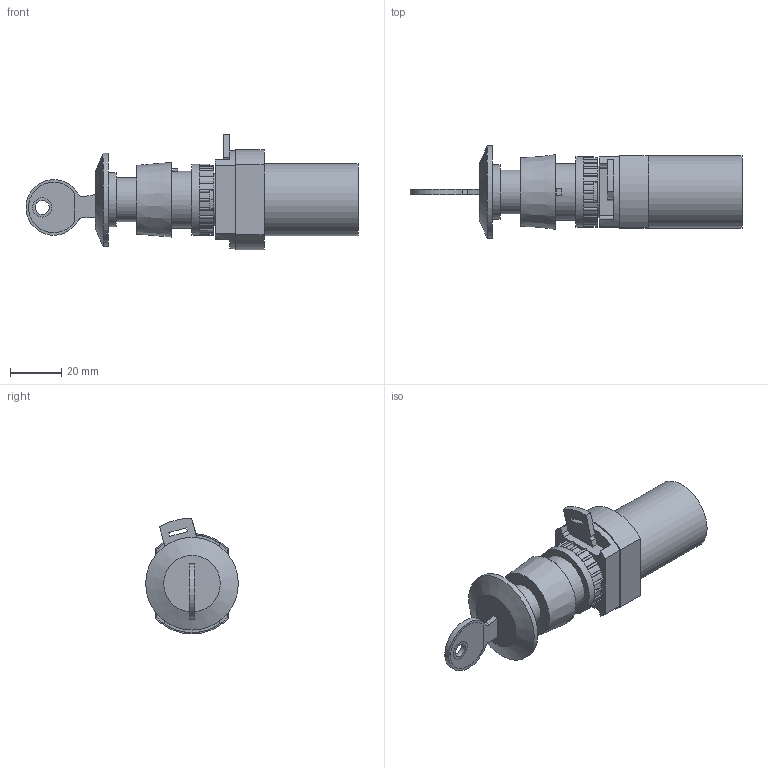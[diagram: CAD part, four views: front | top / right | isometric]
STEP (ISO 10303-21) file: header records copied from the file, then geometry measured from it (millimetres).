
FILE_DESCRIPTION (( 'STEP AP214' ), '1' );
FILE_NAME ('18-T-23-015---T-30-510_Airtec.step', '2018-11-15T12:47:47', ( '' ), ( '' ), 'SwSTEP 2.0', 'SolidWorks 2010', '' );
FILE_SCHEMA (( 'AUTOMOTIVE_DESIGN' ));
Length unit declared in the file: millimetre
Products named in the file (3): 18-T-23-015-Airtec; T-30-510-Airtec; 18-T-23-015---T-30-510_Airtec
Assembly tree (2 placements, depth 2):
  18-T-23-015---T-30-510_Airtec
    18-T-23-015-Airtec
    T-30-510-Airtec
Bounding box: 128.97 x 36 x 45 mm (x, y, z)
Volume: 61007.1 mm3; surface area: 17759.5 mm2
Topology: 2 solids, 2 shells, 373 faces, 1011 edges, 663 vertices
Faces by surface type: plane 221, cylinder 144, cone 8
Full cylindrical faces by diameter (mm): 3.9 x1, 4.134 x5, 5.5 x1, 7.5 x2, 16 x1, 17 x1, 20 x1, 21 x1, 22 x1, 27.5 x1, 28 x1, 36 x1
Entity records: 11690 total; most frequent: DIRECTION 2092, CARTESIAN_POINT 2006, ORIENTED_EDGE 1948, EDGE_CURVE 974, AXIS2_PLACEMENT_3D 741, VERTEX_POINT 651, LINE 610, VECTOR 610
